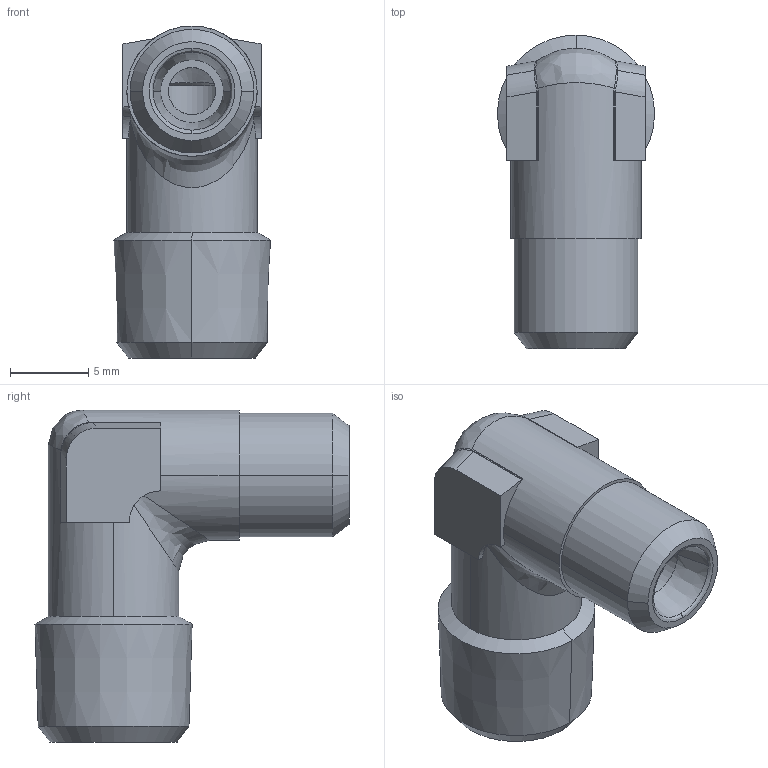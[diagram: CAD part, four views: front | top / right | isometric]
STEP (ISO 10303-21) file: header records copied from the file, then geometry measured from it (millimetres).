
FILE_DESCRIPTION((''),'2;1');
FILE_NAME('102001.stp','2007-10-30T16:32:05',(''),(''),'AutoCAD STEP 2000i','AutoCAD 2000i',', , ');
FILE_SCHEMA(('CONFIG_CONTROL_DESIGN'));
Length unit declared in the file: millimetre
Products named in the file (2): 102001.0; 1090#0
Assembly tree (1 placements, depth 2):
  102001.0
    1090#0
Bounding box: 10.01 x 20 x 21.15 mm (x, y, z)
Volume: 1503 mm3; surface area: 1337.8 mm2
Topology: 1 solids, 1 shells, 70 faces, 182 edges, 116 vertices
Faces by surface type: cylinder 28, cone 16, plane 14, bspline 12
Entity records: 3189 total; most frequent: CARTESIAN_POINT 1378, ORIENTED_EDGE 364, DIRECTION 362, EDGE_CURVE 182, AXIS2_PLACEMENT_3D 150, VERTEX_POINT 116, CIRCLE 82, EDGE_LOOP 74
